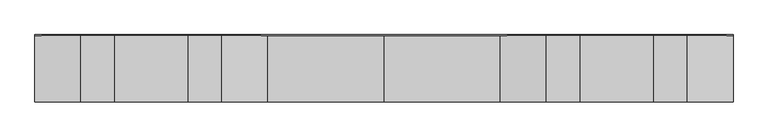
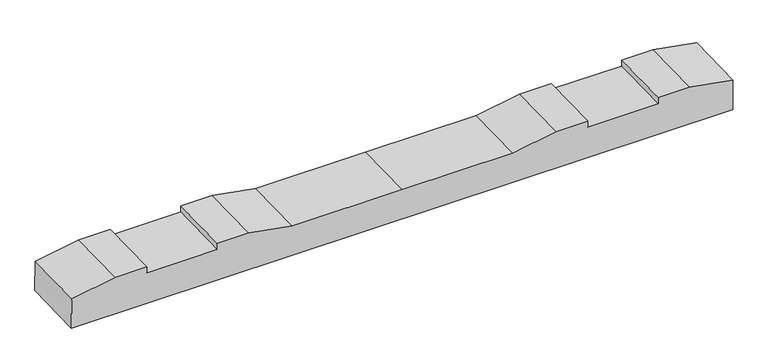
"""IFC4 building model written with IfcOpenShell, lengths in millimetres: proxy geometry, 轨枕-立面角度 : 轨枕-立面角度."""

from ifc_helpers import new_model, si_unit, frame, origin, place, context, project, spatial, polyline, outline, extrude, source, transform, mapped, element, save


def generic_models_11c14676(model_context):
    return source(origin(), model_context, "Body", "SweptSolid", [
        extrude(outline(polyline([(0.0, 0.0), (2099.7669328, 0.0), (2099.7669328, -100.0206889), (1961.8834664, -124.5), (1861.8834664, -124.5), (1861.8834664, -104.4999999), (1637.8834664, -104.4999999), (1637.8834664, -124.5), (1537.8834664, -124.5), (1399.8834664, -100.0), (1049.8834664, -100.0), (699.8834664, -100.0), (561.8834664, -124.5), (461.8834664, -124.5), (461.8834664, -104.4999999), (237.8834664, -104.4999999), (237.8834664, -124.5), (137.8834664, -124.5), (0.0, -100.0206889), (0.0, 0.0)])), frame((-1049.8834664, -97.4107253, -106.9177281), z_axis=(0.0, 0.9997000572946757, 0.024490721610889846), x_axis=(1.0, 0.0, 0.0)), (0.0, 0.0, 1.0), 200.0),
    ])


if __name__ == "__main__":
    model = new_model("IFC4")
    model_context = context("Model", 3, world=origin())
    ifc_project = project(units=[si_unit("LENGTHUNIT", "METRE", prefix="MILLI")], contexts=[model_context])
    site = spatial("IfcSite", under=ifc_project)
    building = spatial("IfcBuilding", under=site)
    placement = place(None, origin())
    generic_models_shape = generic_models_11c14676(model_context)
    element("IfcBuildingElementProxy", 1, Name="轨枕-立面角度 : 轨枕-立面角度", ObjectType="轨枕-立面角度 : 轨枕-立面角度", at=placement, inside=building, context=model_context, shape_type="MappedRepresentation", body=[
        mapped(generic_models_shape, transform((0.0, 0.0, 0.0), x_axis=(1.0, 0.0, 0.0), y_axis=(0.0, 1.0, 0.0), z_axis=(0.0, 0.0, 1.0))),
    ])
    save(model, "model.ifc")
